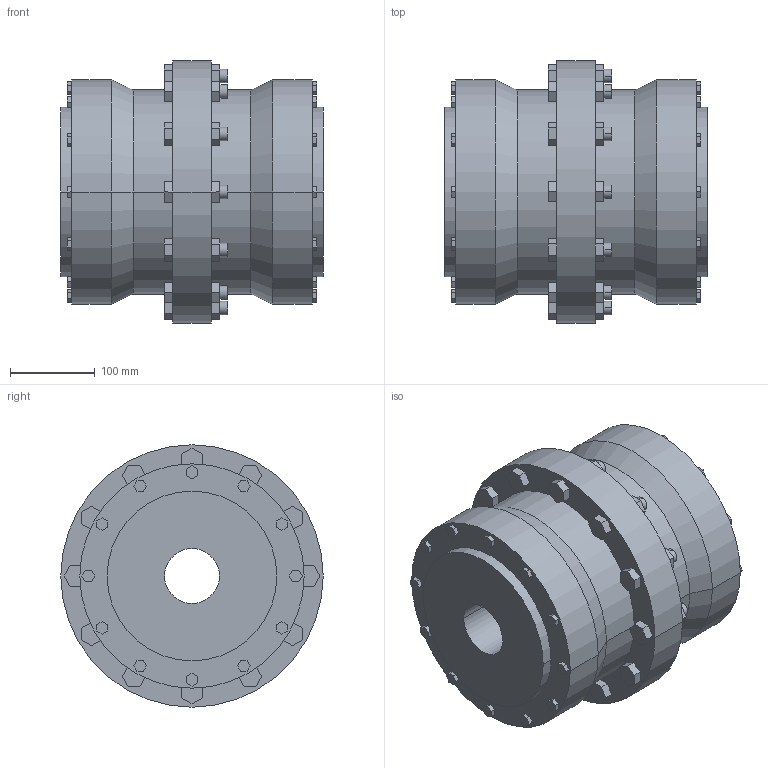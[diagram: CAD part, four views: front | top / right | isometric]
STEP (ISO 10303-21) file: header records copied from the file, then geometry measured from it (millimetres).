
FILE_DESCRIPTION((''),'2;1');
FILE_NAME('A18978800-0_ASM','2018-09-26T',('AB_Roschiwal'),('RENK AG'),'PRO/ENGINEER BY PARAMETRIC TECHNOLOGY CORPORATION, 2015440','PRO/ENGINEER BY PARAMETRIC TECHNOLOGY CORPORATION, 2015440','');
FILE_SCHEMA(('CONFIG_CONTROL_DESIGN'));
Length unit declared in the file: millimetre
Products named in the file (3): SBK125_GEHAEUSE; SBK125_NABE; A18978800-0_ASM
Assembly tree (3 placements, depth 2):
  A18978800-0_ASM
    SBK125_GEHAEUSE
    SBK125_NABE  x2
Bounding box: 310 x 310 x 310 mm (x, y, z)
Volume: 14312362.1 mm3; surface area: 967894.4 mm2
Topology: 3 solids, 3 shells, 422 faces, 1036 edges, 688 vertices
Faces by surface type: plane 362, cylinder 56, cone 4
Entity records: 12052 total; most frequent: CARTESIAN_POINT 2100, ORIENTED_EDGE 2024, DIRECTION 1940, EDGE_CURVE 1012, VECTOR 916, LINE 916, VERTEX_POINT 672, AXIS2_PLACEMENT_3D 512
